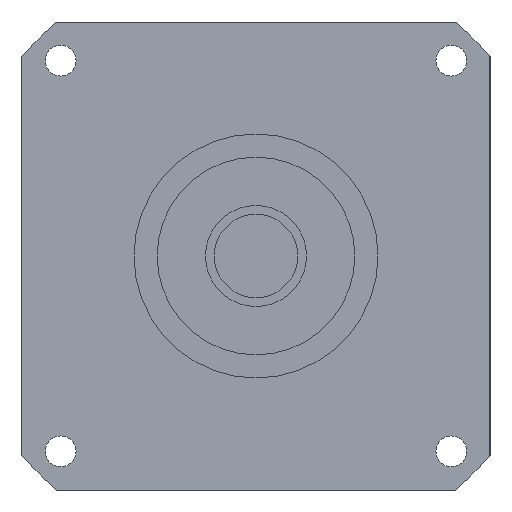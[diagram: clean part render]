
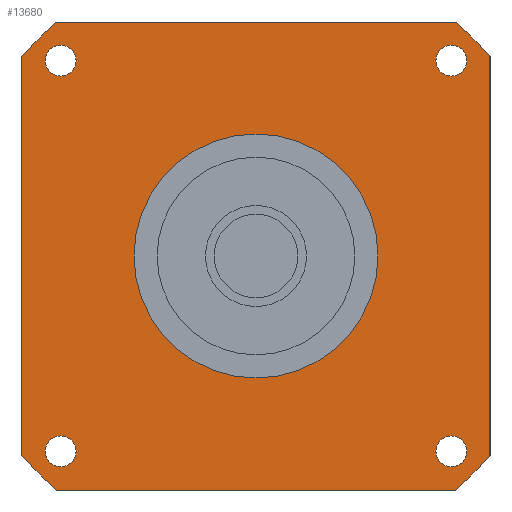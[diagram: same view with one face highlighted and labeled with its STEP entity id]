
A CAD part, left-side view. The second image highlights one B-rep face of the part: STEP entity #13680.
In plain terms, the highlighted planar face has unit normal (-1, 0, 0) as drawn and (0, 0, -1) by its records, which use the part's own axes.
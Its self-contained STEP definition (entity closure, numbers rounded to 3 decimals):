
#8870=CARTESIAN_POINT('',(-45.436,53.25,-41.2));
#8880=VERTEX_POINT('',#8870);
#9060=CARTESIAN_POINT('',(-53.25,45.436,-41.2));
#9070=VERTEX_POINT('',#9060);
#9100=CARTESIAN_POINT('',(0.,0.,
-41.2));
#9110=DIRECTION('',(0.,0.,-1.));
#9120=DIRECTION('',(1.,0.,0.));
#9130=AXIS2_PLACEMENT_3D('',#9100,#9110,#9120);
#9140=CIRCLE('',#9130,70.);
#9150=EDGE_CURVE('',#9070,#8880,#9140,.T.);
#9290=CARTESIAN_POINT('',(53.25,45.436,-41.2));
#9300=VERTEX_POINT('',#9290);
#9350=CARTESIAN_POINT('',(53.25,53.25,-41.2));
#9360=DIRECTION('',(0.,-1.,0.));
#9370=VECTOR('',#9360,1000.);
#9380=LINE('',#9350,#9370);
#9390=CARTESIAN_POINT('',(53.25,-45.436,-41.2));
#9400=VERTEX_POINT('',#9390);
#9410=EDGE_CURVE('',#9300,#9400,#9380,.T.);
#12200=CARTESIAN_POINT('',(-40.949,44.449,-41.2));
#12210=VERTEX_POINT('',#12200);
#12240=CARTESIAN_POINT('',(-44.449,44.449,-41.2));
#12250=DIRECTION('',(0.,0.,-1.));
#12260=DIRECTION('',(-1.,0.,0.));
#12270=AXIS2_PLACEMENT_3D('',#12240,#12250,#12260);
#12280=CIRCLE('',#12270,3.5);
#12290=CARTESIAN_POINT('',(-47.949,44.449,-41.2));
#12300=VERTEX_POINT('',#12290);
#12310=EDGE_CURVE('',#12300,#12210,#12280,.T.);
#12430=CARTESIAN_POINT('',(53.25,53.25,-41.2));
#12440=DIRECTION('',(0.,0.,-1.));
#12450=DIRECTION('',(1.,0.,0.));
#12460=AXIS2_PLACEMENT_3D('',#12430,#12440,#12450);
#12470=PLANE('',#12460);
#12480=ORIENTED_EDGE('',*,*,#12310,.F.);
#12490=EDGE_CURVE('',#12210,#12300,#12280,.T.);
#12500=ORIENTED_EDGE('',*,*,#12490,.F.);
#12510=EDGE_LOOP('',(#12500,#12480));
#12520=FACE_BOUND('',#12510,.T.);
#12530=CARTESIAN_POINT('',(44.449,44.449,-41.2));
#12540=DIRECTION('',(0.,0.,-1.));
#12550=DIRECTION('',(0.,1.,0.));
#12560=AXIS2_PLACEMENT_3D('',#12530,#12540,#12550);
#12570=CIRCLE('',#12560,3.5);
#12580=CARTESIAN_POINT('',(44.449,47.949,-41.2));
#12590=VERTEX_POINT('',#12580);
#12600=CARTESIAN_POINT('',(44.449,40.949,-41.2));
#12610=VERTEX_POINT('',#12600);
#12620=EDGE_CURVE('',#12590,#12610,#12570,.T.);
#12630=ORIENTED_EDGE('',*,*,#12620,.F.);
#12640=EDGE_CURVE('',#12610,#12590,#12570,.T.);
#12650=ORIENTED_EDGE('',*,*,#12640,.F.);
#12660=EDGE_LOOP('',(#12650,#12630));
#12670=FACE_BOUND('',#12660,.T.);
#12680=CARTESIAN_POINT('',(0.,0.,
-41.2));
#12690=DIRECTION('',(0.,0.,1.));
#12700=DIRECTION('',(0.,1.,0.));
#12710=AXIS2_PLACEMENT_3D('',#12680,#12690,#12700);
#12720=CIRCLE('',#12710,27.76);
#12730=CARTESIAN_POINT('',(-27.76,0.,-41.2));
#12740=VERTEX_POINT('',#12730);
#12750=CARTESIAN_POINT('',(27.76,0.,-41.2));
#12760=VERTEX_POINT('',#12750);
#12770=EDGE_CURVE('',#12740,#12760,#12720,.T.);
#12780=ORIENTED_EDGE('',*,*,#12770,.T.);
#12790=CARTESIAN_POINT('',(0.,27.76,-41.2));
#12800=VERTEX_POINT('',#12790);
#12810=EDGE_CURVE('',#12800,#12740,#12720,.T.);
#12820=ORIENTED_EDGE('',*,*,#12810,.T.);
#12830=EDGE_CURVE('',#12760,#12800,#12720,.T.);
#12840=ORIENTED_EDGE('',*,*,#12830,.T.);
#12850=EDGE_LOOP('',(#12840,#12820,#12780));
#12860=FACE_BOUND('',#12850,.T.);
#12870=CARTESIAN_POINT('',(44.449,-44.449,-41.2));
#12880=DIRECTION('',(0.,0.,-1.));
#12890=DIRECTION('',(1.,0.,0.));
#12900=AXIS2_PLACEMENT_3D('',#12870,#12880,#12890);
#12910=CIRCLE('',#12900,3.5);
#12920=CARTESIAN_POINT('',(47.949,-44.449,-41.2));
#12930=VERTEX_POINT('',#12920);
#12940=CARTESIAN_POINT('',(40.949,-44.449,-41.2));
#12950=VERTEX_POINT('',#12940);
#12960=EDGE_CURVE('',#12930,#12950,#12910,.T.);
#12970=ORIENTED_EDGE('',*,*,#12960,.F.);
#12980=EDGE_CURVE('',#12950,#12930,#12910,.T.);
#12990=ORIENTED_EDGE('',*,*,#12980,.F.);
#13000=EDGE_LOOP('',(#12990,#12970));
#13010=FACE_BOUND('',#13000,.T.);
#13020=CARTESIAN_POINT('',(-44.449,-44.449,-41.2));
#13030=DIRECTION('',(0.,0.,-1.));
#13040=DIRECTION('',(0.,-1.,0.));
#13050=AXIS2_PLACEMENT_3D('',#13020,#13030,#13040);
#13060=CIRCLE('',#13050,3.5);
#13070=CARTESIAN_POINT('',(-44.449,-47.949,-41.2));
#13080=VERTEX_POINT('',#13070);
#13090=CARTESIAN_POINT('',(-44.449,-40.949,-41.2));
#13100=VERTEX_POINT('',#13090);
#13110=EDGE_CURVE('',#13080,#13100,#13060,.T.);
#13120=ORIENTED_EDGE('',*,*,#13110,.F.);
#13130=EDGE_CURVE('',#13100,#13080,#13060,.T.);
#13140=ORIENTED_EDGE('',*,*,#13130,.F.);
#13150=EDGE_LOOP('',(#13140,#13120));
#13160=FACE_BOUND('',#13150,.T.);
#13170=CARTESIAN_POINT('',(-53.25,53.25,-41.2));
#13180=DIRECTION('',(1.,0.,0.));
#13190=VECTOR('',#13180,1000.);
#13200=LINE('',#13170,#13190);
#13210=CARTESIAN_POINT('',(45.436,53.25,-41.2));
#13220=VERTEX_POINT('',#13210);
#13230=EDGE_CURVE('',#8880,#13220,#13200,.T.);
#13240=ORIENTED_EDGE('',*,*,#13230,.T.);
#13250=ORIENTED_EDGE('',*,*,#9150,.T.);
#13260=CARTESIAN_POINT('',(-53.25,-53.25,-41.2));
#13270=DIRECTION('',(0.,1.,0.));
#13280=VECTOR('',#13270,1000.);
#13290=LINE('',#13260,#13280);
#13300=CARTESIAN_POINT('',(-53.25,-45.436,-41.2));
#13310=VERTEX_POINT('',#13300);
#13320=EDGE_CURVE('',#13310,#9070,#13290,.T.);
#13330=ORIENTED_EDGE('',*,*,#13320,.T.);
#13340=CARTESIAN_POINT('',(0.,0.,
-41.2));
#13350=DIRECTION('',(0.,0.,-1.));
#13360=DIRECTION('',(1.,0.,0.));
#13370=AXIS2_PLACEMENT_3D('',#13340,#13350,#13360);
#13380=CIRCLE('',#13370,70.);
#13390=CARTESIAN_POINT('',(-45.436,-53.25,-41.2));
#13400=VERTEX_POINT('',#13390);
#13410=EDGE_CURVE('',#13400,#13310,#13380,.T.);
#13420=ORIENTED_EDGE('',*,*,#13410,.T.);
#13430=CARTESIAN_POINT('',(53.25,-53.25,-41.2));
#13440=DIRECTION('',(-1.,0.,0.));
#13450=VECTOR('',#13440,1000.);
#13460=LINE('',#13430,#13450);
#13470=CARTESIAN_POINT('',(45.436,-53.25,-41.2));
#13480=VERTEX_POINT('',#13470);
#13490=EDGE_CURVE('',#13480,#13400,#13460,.T.);
#13500=ORIENTED_EDGE('',*,*,#13490,.T.);
#13510=CARTESIAN_POINT('',(0.,0.,
-41.2));
#13520=DIRECTION('',(0.,0.,-1.));
#13530=DIRECTION('',(1.,0.,0.));
#13540=AXIS2_PLACEMENT_3D('',#13510,#13520,#13530);
#13550=CIRCLE('',#13540,70.);
#13560=EDGE_CURVE('',#9400,#13480,#13550,.T.);
#13570=ORIENTED_EDGE('',*,*,#13560,.T.);
#13580=ORIENTED_EDGE('',*,*,#9410,.T.);
#13590=CARTESIAN_POINT('',(0.,0.,
-41.2));
#13600=DIRECTION('',(0.,0.,-1.));
#13610=DIRECTION('',(1.,0.,0.));
#13620=AXIS2_PLACEMENT_3D('',#13590,#13600,#13610);
#13630=CIRCLE('',#13620,70.);
#13640=EDGE_CURVE('',#13220,#9300,#13630,.T.);
#13650=ORIENTED_EDGE('',*,*,#13640,.T.);
#13660=EDGE_LOOP('',(#13650,#13580,#13570,#13500,#13420,#13330,#13250,
#13240));
#13670=FACE_OUTER_BOUND('',#13660,.T.);
#13680=ADVANCED_FACE('',(#12520,#12670,#12860,#13010,#13160,#13670),
#12470,.T.);
